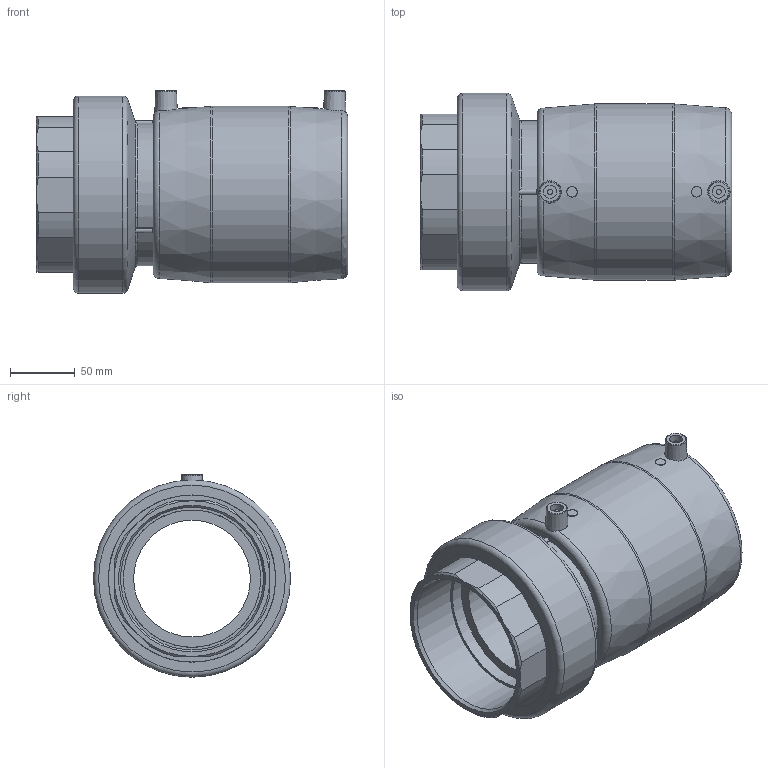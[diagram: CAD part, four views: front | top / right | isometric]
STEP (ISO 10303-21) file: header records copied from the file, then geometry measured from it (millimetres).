
FILE_DESCRIPTION(/* description */ ('Unknown'),/* implementation_level */ '2;1');
FILE_NAME(/* name */ 'MTFP110C',/* time_stamp */ '2021-03-02T09:41:56+01:00',/* author */ ('Unknown'),/* organization */ ('Unknown'),/* preprocessor_version */ 'ST-DEVELOPER v16.7',/* originating_system */ 'Solid Edge',/* authorisation */ 'Unknown');
FILE_SCHEMA (('AUTOMOTIVE_DESIGN {1 0 10303 214 3 1 1}'));
Length unit declared in the file: millimetre
Products named in the file (5): MTFP110C; MP110C; RTOFP110C; Parte PE 110; IOF110C
Assembly tree (4 placements, depth 3):
  MTFP110C
    MP110C
    RTOFP110C
      Parte PE 110
      IOF110C
Bounding box: 240 x 152 x 156 mm (x, y, z)
Volume: 1498163.4 mm3; surface area: 325648.8 mm2
Topology: 3 solids, 3 shells, 213 faces, 522 edges, 332 vertices
Faces by surface type: plane 109, cylinder 49, cone 23, torus 17, bspline 15
Full cylindrical faces by diameter (mm): 4 x2, 8 x2, 10 x2, 90 x1, 100 x2, 106 x2, 110 x2, 110.072 x1, 119 x2, 123.4 x2, 129 x8, 136 x1, 152 x1
Entity records: 6742 total; most frequent: CARTESIAN_POINT 1386, DIRECTION 1012, ORIENTED_EDGE 898, EDGE_CURVE 449, AXIS2_PLACEMENT_3D 412, VERTEX_POINT 311, EDGE_LOOP 288, FACE_BOUND 288
